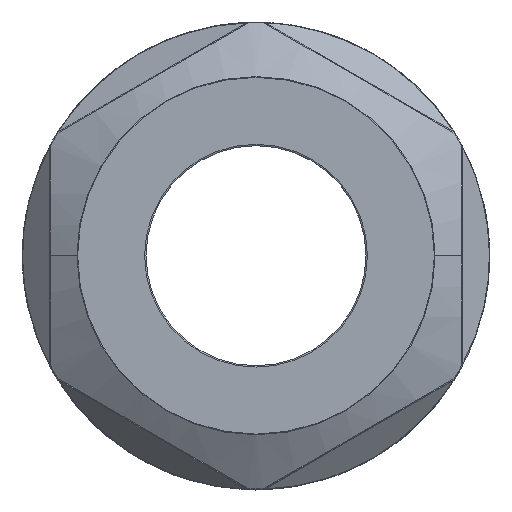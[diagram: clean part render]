
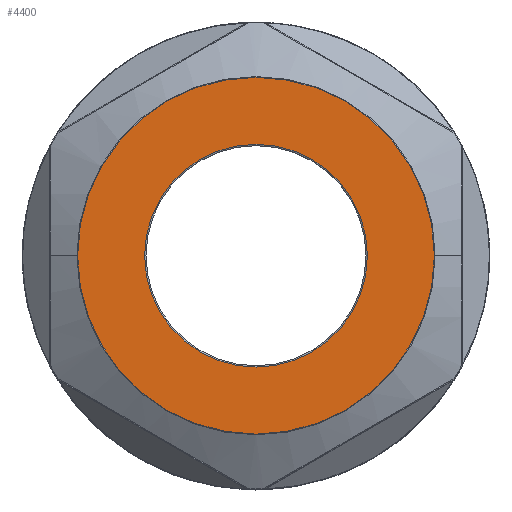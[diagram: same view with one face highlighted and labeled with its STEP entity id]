
A CAD part, top view. The second image highlights one B-rep face of the part: STEP entity #4400.
In plain terms, the highlighted planar face has unit normal (0, 0, 1).
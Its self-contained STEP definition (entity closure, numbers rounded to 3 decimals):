
#10 = EDGE_CURVE ( 'NONE', #4724, #3025, #1485, .T. ) ;
#323 = CARTESIAN_POINT ( 'NONE',  ( -8.1, 0., 0. ) ) ;
#360 = CIRCLE ( 'NONE', #4595, 8.1 ) ;
#406 = DIRECTION ( 'NONE',  ( 0., 0., -1. ) ) ;
#748 = CARTESIAN_POINT ( 'NONE',  ( 12.973, 0., 0. ) ) ;
#1329 = DIRECTION ( 'NONE',  ( 0., 0., 1. ) ) ;
#1468 = AXIS2_PLACEMENT_3D ( 'NONE', #2404, #5379, #2823 ) ;
#1485 = CIRCLE ( 'NONE', #3425, 12.973 ) ;
#1584 = DIRECTION ( 'NONE',  ( 1., 0., 0. ) ) ;
#1608 = FACE_OUTER_BOUND ( 'NONE', #3610, .T. ) ;
#1933 = CARTESIAN_POINT ( 'NONE',  ( 0., 0., 0. ) ) ;
#1988 = DIRECTION ( 'NONE',  ( 0., 0., -1. ) ) ;
#2154 = ORIENTED_EDGE ( 'NONE', *, *, #3014, .T. ) ;
#2190 = CIRCLE ( 'NONE', #1468, 12.973 ) ;
#2224 = EDGE_LOOP ( 'NONE', ( #5278, #2154 ) ) ;
#2347 = VERTEX_POINT ( 'NONE', #323 ) ;
#2404 = CARTESIAN_POINT ( 'NONE',  ( 0., 0., 0. ) ) ;
#2441 = AXIS2_PLACEMENT_3D ( 'NONE', #3810, #5500, #4684 ) ;
#2474 = CARTESIAN_POINT ( 'NONE',  ( 8.1, 0., 0. ) ) ;
#2523 = CARTESIAN_POINT ( 'NONE',  ( -12.973, 0., 0. ) ) ;
#2823 = DIRECTION ( 'NONE',  ( 1., 0., 0. ) ) ;
#2848 = ORIENTED_EDGE ( 'NONE', *, *, #10, .T. ) ;
#2975 = CARTESIAN_POINT ( 'NONE',  ( 0., 0., 0. ) ) ;
#3014 = EDGE_CURVE ( 'NONE', #2347, #4337, #4758, .T. ) ;
#3025 = VERTEX_POINT ( 'NONE', #2523 ) ;
#3107 = AXIS2_PLACEMENT_3D ( 'NONE', #2975, #406, #3412 ) ;
#3381 = PLANE ( 'NONE',  #2441 ) ;
#3412 = DIRECTION ( 'NONE',  ( 1., 0., 0. ) ) ;
#3425 = AXIS2_PLACEMENT_3D ( 'NONE', #1933, #1329, #1584 ) ;
#3486 = ORIENTED_EDGE ( 'NONE', *, *, #4588, .T. ) ;
#3610 = EDGE_LOOP ( 'NONE', ( #2848, #3486 ) ) ;
#3810 = CARTESIAN_POINT ( 'NONE',  ( 0., 0., 0. ) ) ;
#4337 = VERTEX_POINT ( 'NONE', #2474 ) ;
#4400 = ADVANCED_FACE ( 'NONE', ( #1608, #5010 ), #3381, .T. ) ;
#4548 = CARTESIAN_POINT ( 'NONE',  ( 0., 0., 0. ) ) ;
#4588 = EDGE_CURVE ( 'NONE', #3025, #4724, #2190, .T. ) ;
#4595 = AXIS2_PLACEMENT_3D ( 'NONE', #4548, #1988, #4974 ) ;
#4684 = DIRECTION ( 'NONE',  ( 1., 0., 0. ) ) ;
#4724 = VERTEX_POINT ( 'NONE', #748 ) ;
#4758 = CIRCLE ( 'NONE', #3107, 8.1 ) ;
#4974 = DIRECTION ( 'NONE',  ( 1., 0., 0. ) ) ;
#5010 = FACE_BOUND ( 'NONE', #2224, .T. ) ;
#5278 = ORIENTED_EDGE ( 'NONE', *, *, #5522, .T. ) ;
#5379 = DIRECTION ( 'NONE',  ( 0., 0., 1. ) ) ;
#5500 = DIRECTION ( 'NONE',  ( 0., 0., 1. ) ) ;
#5522 = EDGE_CURVE ( 'NONE', #4337, #2347, #360, .T. ) ;
